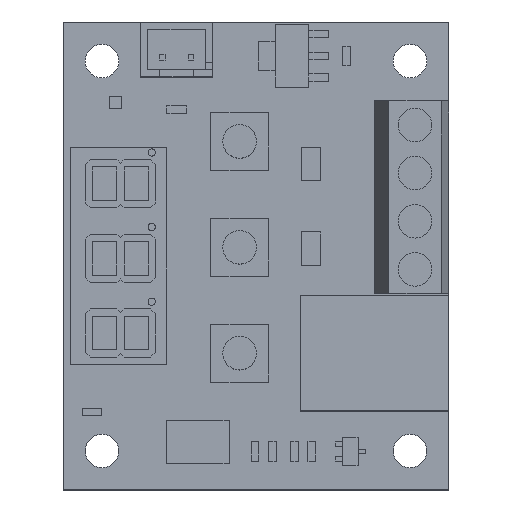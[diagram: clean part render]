
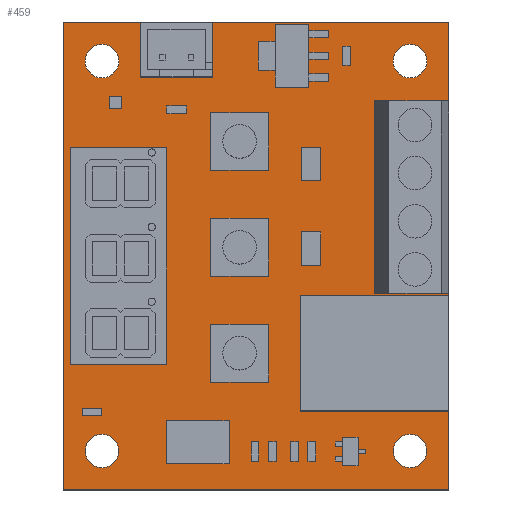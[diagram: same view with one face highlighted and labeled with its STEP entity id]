
A CAD part, top view. The second image highlights one B-rep face of the part: STEP entity #459.
In plain terms, the highlighted planar face has unit normal (0, 0, 1).
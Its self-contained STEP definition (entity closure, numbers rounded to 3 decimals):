
#63=CARTESIAN_POINT('Vertex',(-20.,-24.3,1.5)) ;
#77=CARTESIAN_POINT('Vertex',(20.,-24.3,1.5)) ;
#80=CARTESIAN_POINT('Line Origine',(0.,-24.3,1.5)) ;
#108=CARTESIAN_POINT('Vertex',(20.,24.3,1.5)) ;
#111=CARTESIAN_POINT('Line Origine',(20.,0.,1.5)) ;
#139=CARTESIAN_POINT('Vertex',(-20.,24.3,1.5)) ;
#142=CARTESIAN_POINT('Line Origine',(0.,24.3,1.5)) ;
#164=CARTESIAN_POINT('Line Origine',(-20.,0.,1.5)) ;
#181=CARTESIAN_POINT('Axis2P3D Location',(-16.,20.25,1.5)) ;
#185=CARTESIAN_POINT('Vertex',(-17.75,20.25,1.5)) ;
#187=CARTESIAN_POINT('Vertex',(-14.25,20.25,1.5)) ;
#216=CARTESIAN_POINT('Axis2P3D Location',(-16.,20.25,1.5)) ;
#238=CARTESIAN_POINT('Axis2P3D Location',(-16.,-20.25,1.5)) ;
#242=CARTESIAN_POINT('Vertex',(-17.75,-20.25,1.5)) ;
#244=CARTESIAN_POINT('Vertex',(-14.25,-20.25,1.5)) ;
#273=CARTESIAN_POINT('Axis2P3D Location',(-16.,-20.25,1.5)) ;
#295=CARTESIAN_POINT('Axis2P3D Location',(16.,-20.25,1.5)) ;
#299=CARTESIAN_POINT('Vertex',(14.25,-20.25,1.5)) ;
#301=CARTESIAN_POINT('Vertex',(17.75,-20.25,1.5)) ;
#330=CARTESIAN_POINT('Axis2P3D Location',(16.,-20.25,1.5)) ;
#352=CARTESIAN_POINT('Axis2P3D Location',(16.,20.25,1.5)) ;
#356=CARTESIAN_POINT('Vertex',(14.25,20.25,1.5)) ;
#358=CARTESIAN_POINT('Vertex',(17.75,20.25,1.5)) ;
#387=CARTESIAN_POINT('Axis2P3D Location',(16.,20.25,1.5)) ;
#432=CARTESIAN_POINT('Axis2P3D Location',(0.,0.,1.5)) ;
#81=DIRECTION('Vector Direction',(1.,0.,0.)) ;
#112=DIRECTION('Vector Direction',(0.,1.,0.)) ;
#143=DIRECTION('Vector Direction',(-1.,0.,0.)) ;
#165=DIRECTION('Vector Direction',(0.,-1.,0.)) ;
#182=DIRECTION('Axis2P3D Direction',(0.,0.,1.)) ;
#217=DIRECTION('Axis2P3D Direction',(0.,0.,1.)) ;
#239=DIRECTION('Axis2P3D Direction',(0.,0.,1.)) ;
#274=DIRECTION('Axis2P3D Direction',(0.,0.,1.)) ;
#296=DIRECTION('Axis2P3D Direction',(0.,0.,1.)) ;
#331=DIRECTION('Axis2P3D Direction',(0.,0.,1.)) ;
#353=DIRECTION('Axis2P3D Direction',(0.,0.,1.)) ;
#388=DIRECTION('Axis2P3D Direction',(0.,0.,1.)) ;
#433=DIRECTION('Axis2P3D Direction',(0.,0.,1.)) ;
#434=DIRECTION('Axis2P3D XDirection',(1.,0.,0.)) ;
#183=AXIS2_PLACEMENT_3D('Circle Axis2P3D',#181,#182,$) ;
#218=AXIS2_PLACEMENT_3D('Circle Axis2P3D',#216,#217,$) ;
#240=AXIS2_PLACEMENT_3D('Circle Axis2P3D',#238,#239,$) ;
#275=AXIS2_PLACEMENT_3D('Circle Axis2P3D',#273,#274,$) ;
#297=AXIS2_PLACEMENT_3D('Circle Axis2P3D',#295,#296,$) ;
#332=AXIS2_PLACEMENT_3D('Circle Axis2P3D',#330,#331,$) ;
#354=AXIS2_PLACEMENT_3D('Circle Axis2P3D',#352,#353,$) ;
#389=AXIS2_PLACEMENT_3D('Circle Axis2P3D',#387,#388,$) ;
#435=AXIS2_PLACEMENT_3D('Plane Axis2P3D',#432,#433,#434) ;
#438=ORIENTED_EDGE('',*,*,#84,.T.) ;
#439=ORIENTED_EDGE('',*,*,#115,.T.) ;
#440=ORIENTED_EDGE('',*,*,#146,.T.) ;
#441=ORIENTED_EDGE('',*,*,#168,.T.) ;
#444=ORIENTED_EDGE('',*,*,#189,.F.) ;
#445=ORIENTED_EDGE('',*,*,#220,.F.) ;
#448=ORIENTED_EDGE('',*,*,#246,.F.) ;
#449=ORIENTED_EDGE('',*,*,#277,.F.) ;
#452=ORIENTED_EDGE('',*,*,#303,.F.) ;
#453=ORIENTED_EDGE('',*,*,#334,.F.) ;
#456=ORIENTED_EDGE('',*,*,#360,.F.) ;
#457=ORIENTED_EDGE('',*,*,#391,.F.) ;
#446=FACE_BOUND('',#443,.T.) ;
#450=FACE_BOUND('',#447,.T.) ;
#454=FACE_BOUND('',#451,.T.) ;
#458=FACE_BOUND('',#455,.T.) ;
#82=VECTOR('Line Direction',#81,1.) ;
#113=VECTOR('Line Direction',#112,1.) ;
#144=VECTOR('Line Direction',#143,1.) ;
#166=VECTOR('Line Direction',#165,1.) ;
#459=ADVANCED_FACE('PartBody',(#442,#446,#450,#454,#458),#436,.T.) ;
#184=CIRCLE('generated circle',#183,1.75) ;
#219=CIRCLE('generated circle',#218,1.75) ;
#241=CIRCLE('generated circle',#240,1.75) ;
#276=CIRCLE('generated circle',#275,1.75) ;
#298=CIRCLE('generated circle',#297,1.75) ;
#333=CIRCLE('generated circle',#332,1.75) ;
#355=CIRCLE('generated circle',#354,1.75) ;
#390=CIRCLE('generated circle',#389,1.75) ;
#84=EDGE_CURVE('',#64,#78,#83,.T.) ;
#115=EDGE_CURVE('',#78,#109,#114,.T.) ;
#146=EDGE_CURVE('',#109,#140,#145,.T.) ;
#168=EDGE_CURVE('',#140,#64,#167,.T.) ;
#189=EDGE_CURVE('',#186,#188,#184,.T.) ;
#220=EDGE_CURVE('',#188,#186,#219,.T.) ;
#246=EDGE_CURVE('',#243,#245,#241,.T.) ;
#277=EDGE_CURVE('',#245,#243,#276,.T.) ;
#303=EDGE_CURVE('',#300,#302,#298,.T.) ;
#334=EDGE_CURVE('',#302,#300,#333,.T.) ;
#360=EDGE_CURVE('',#357,#359,#355,.T.) ;
#391=EDGE_CURVE('',#359,#357,#390,.T.) ;
#437=EDGE_LOOP('',(#438,#439,#440,#441)) ;
#443=EDGE_LOOP('',(#444,#445)) ;
#447=EDGE_LOOP('',(#448,#449)) ;
#451=EDGE_LOOP('',(#452,#453)) ;
#455=EDGE_LOOP('',(#456,#457)) ;
#442=FACE_OUTER_BOUND('',#437,.T.) ;
#83=LINE('Line',#80,#82) ;
#114=LINE('Line',#111,#113) ;
#145=LINE('Line',#142,#144) ;
#167=LINE('Line',#164,#166) ;
#436=PLANE('Plane',#435) ;
#64=VERTEX_POINT('',#63) ;
#78=VERTEX_POINT('',#77) ;
#109=VERTEX_POINT('',#108) ;
#140=VERTEX_POINT('',#139) ;
#186=VERTEX_POINT('',#185) ;
#188=VERTEX_POINT('',#187) ;
#243=VERTEX_POINT('',#242) ;
#245=VERTEX_POINT('',#244) ;
#300=VERTEX_POINT('',#299) ;
#302=VERTEX_POINT('',#301) ;
#357=VERTEX_POINT('',#356) ;
#359=VERTEX_POINT('',#358) ;
